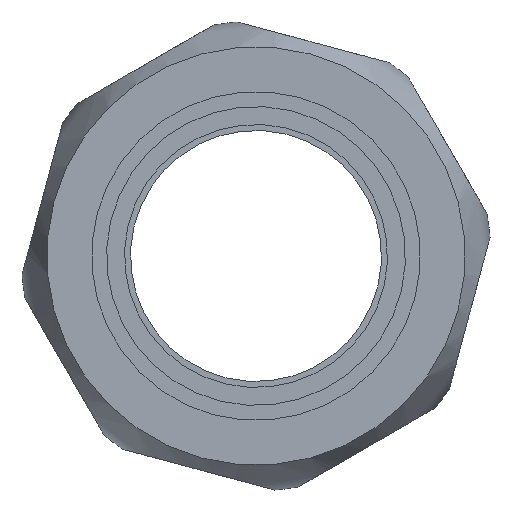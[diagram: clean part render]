
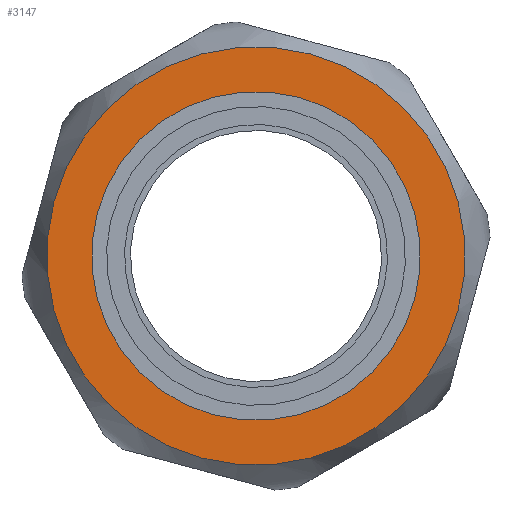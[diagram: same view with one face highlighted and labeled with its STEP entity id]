
A CAD part, left-side view. The second image highlights one B-rep face of the part: STEP entity #3147.
In plain terms, the highlighted planar face has unit normal (-1, 0, 0).
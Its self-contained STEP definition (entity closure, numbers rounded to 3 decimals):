
#3084=CARTESIAN_POINT('',(0.0,17.5,0.0));
#3085=VERTEX_POINT('',#3084);
#3086=CARTESIAN_POINT('',(0.0,0.0,0.0));
#3087=DIRECTION('',(1.0,0.0,0.0));
#3088=DIRECTION('',(0.0,1.0,0.0));
#3089=AXIS2_PLACEMENT_3D('',#3086,#3087,#3088);
#3090=CIRCLE('',#3089,17.5);
#3091=EDGE_CURVE('',#3085,#3085,#3090,.T.);
#3121=CARTESIAN_POINT('',(0.0,13.75,0.0));
#3122=VERTEX_POINT('',#3121);
#3123=CARTESIAN_POINT('',(0.0,0.0,0.0));
#3124=DIRECTION('',(1.0,0.0,0.0));
#3125=DIRECTION('',(0.0,1.0,0.0));
#3126=AXIS2_PLACEMENT_3D('',#3123,#3124,#3125);
#3127=CIRCLE('',#3126,13.75);
#3128=EDGE_CURVE('',#3122,#3122,#3127,.T.);
#3136=CARTESIAN_POINT('',(0.0,15.625,0.0));
#3137=DIRECTION('',(-1.0,0.0,0.0));
#3138=DIRECTION('',(0.0,0.0,1.0));
#3139=AXIS2_PLACEMENT_3D('',#3136,#3137,#3138);
#3140=PLANE('',#3139);
#3141=ORIENTED_EDGE('',*,*,#3091,.F.);
#3142=EDGE_LOOP('',(#3141));
#3143=FACE_OUTER_BOUND('',#3142,.T.);
#3144=ORIENTED_EDGE('',*,*,#3128,.T.);
#3145=EDGE_LOOP('',(#3144));
#3146=FACE_BOUND('',#3145,.T.);
#3147=ADVANCED_FACE('',(#3143,#3146),#3140,.T.);
